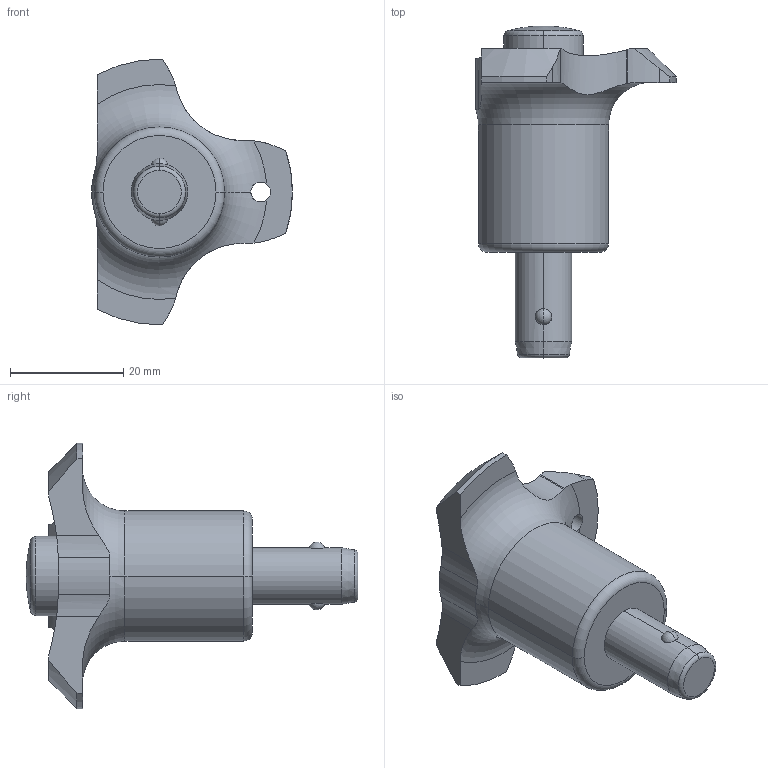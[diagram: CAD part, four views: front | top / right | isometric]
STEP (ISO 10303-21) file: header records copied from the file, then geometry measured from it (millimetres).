
FILE_DESCRIPTION (( 'STEP AP203' ), '1' );
FILE_NAME ('33180.W0032.step', '2025-01-06T11:15:11', ( '' ), ( '' ), 'SwSTEP 2.0', 'SolidWorks 2019', '' );
FILE_SCHEMA (( 'CONFIG_CONTROL_DESIGN' ));
Length unit declared in the file: millimetre
Products named in the file (4): Part3_33180.W0032; Part1_33180.W0032; Part2_33180.W0032; 33180.W0032
Assembly tree (3 placements, depth 2):
  33180.W0032
    Part1_33180.W0032
    Part2_33180.W0032
    Part3_33180.W0032
Bounding box: 35.5 x 58.7 x 46.99 mm (x, y, z)
Volume: 18049.4 mm3; surface area: 8421.6 mm2
Topology: 3 solids, 3 shells, 68 faces, 177 edges, 113 vertices
Faces by surface type: cylinder 26, plane 20, torus 8, sphere 8, cone 6
Entity records: 2835 total; most frequent: CARTESIAN_POINT 754, DIRECTION 369, ORIENTED_EDGE 354, EDGE_CURVE 177, AXIS2_PLACEMENT_3D 160, VERTEX_POINT 113, CIRCLE 86, EDGE_LOOP 70
